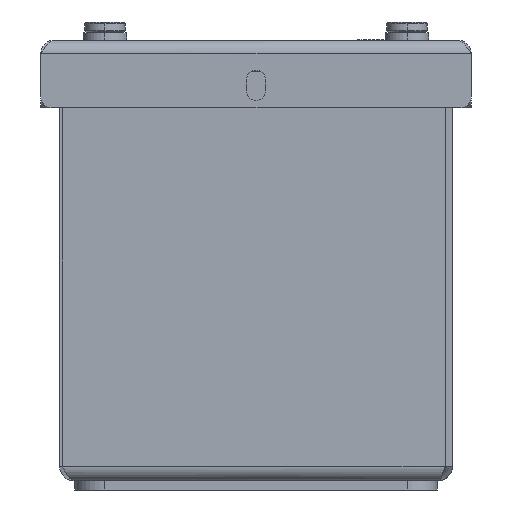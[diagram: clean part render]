
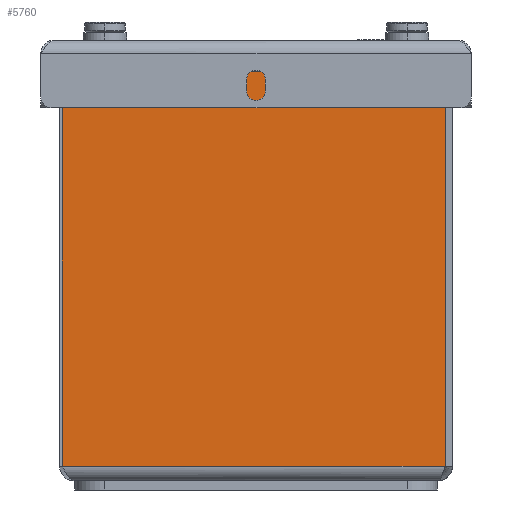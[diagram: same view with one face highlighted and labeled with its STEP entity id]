
A CAD part, left-side view. The second image highlights one B-rep face of the part: STEP entity #5760.
In plain terms, the highlighted planar face has unit normal (-1, 0, 0).
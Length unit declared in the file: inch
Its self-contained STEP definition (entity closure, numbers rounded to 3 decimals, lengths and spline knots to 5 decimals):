
#270=DIRECTION('',(0.,-1.,0.));
#271=VECTOR('',#270,3.168);
#272=CARTESIAN_POINT('',(0.,3.228,0.12));
#273=LINE('',#272,#271);
#1718=DIRECTION('',(0.,-1.,0.));
#1719=VECTOR('',#1718,2.47175);
#1720=CARTESIAN_POINT('',(0.,3.228,3.388));
#1721=LINE('',#1720,#1719);
#1808=DIRECTION('',(0.,0.,1.));
#1809=VECTOR('',#1808,3.268);
#1810=CARTESIAN_POINT('',(0.,3.228,0.12));
#1811=LINE('',#1810,#1809);
#1815=DIRECTION('',(0.,0.,1.));
#1816=VECTOR('',#1815,0.042);
#1817=CARTESIAN_POINT('',(0.,0.75625,3.388));
#1818=LINE('',#1817,#1816);
#1822=DIRECTION('',(0.,1.,0.));
#1823=VECTOR('',#1822,0.65125);
#1824=CARTESIAN_POINT('',(0.,0.105,3.43));
#1825=LINE('',#1824,#1823);
#1829=CARTESIAN_POINT('',(0.,0.105,3.385));
#1830=DIRECTION('',(-1.,0.,0.));
#1831=DIRECTION('',(0.,-1.,0.));
#1832=AXIS2_PLACEMENT_3D('',#1829,#1830,#1831);
#1879=DIRECTION('',(0.,0.,1.));
#1880=VECTOR('',#1879,3.265);
#1881=CARTESIAN_POINT('',(0.,0.06,0.12));
#1882=LINE('',#1881,#1880);
#3556=CARTESIAN_POINT('',(0.,0.75625,3.388));
#3557=CARTESIAN_POINT('',(0.,0.75625,3.43));
#3558=VERTEX_POINT('',#3556);
#3559=VERTEX_POINT('',#3557);
#3684=CARTESIAN_POINT('',(0.,3.228,0.12));
#3685=CARTESIAN_POINT('',(0.,3.228,3.388));
#3686=VERTEX_POINT('',#3684);
#3687=VERTEX_POINT('',#3685);
#3748=CARTESIAN_POINT('',(0.,0.06,3.385));
#3749=CARTESIAN_POINT('',(0.,0.105,3.43));
#3750=VERTEX_POINT('',#3748);
#3751=VERTEX_POINT('',#3749);
#3756=CARTESIAN_POINT('',(0.,0.06,0.12));
#3757=VERTEX_POINT('',#3756);
#5742=CARTESIAN_POINT('',(0.,3.25,0.));
#5743=DIRECTION('',(-1.,0.,0.));
#5744=DIRECTION('',(0.,-1.,0.));
#5745=AXIS2_PLACEMENT_3D('',#5742,#5743,#5744);
#5746=PLANE('',#5745);
#5747=ORIENTED_EDGE('',*,*,#5303,.T.);
#5748=ORIENTED_EDGE('',*,*,#5732,.T.);
#5750=ORIENTED_EDGE('',*,*,#5749,.T.);
#5752=ORIENTED_EDGE('',*,*,#5751,.F.);
#5754=ORIENTED_EDGE('',*,*,#5753,.F.);
#5756=ORIENTED_EDGE('',*,*,#5755,.F.);
#5757=ORIENTED_EDGE('',*,*,#4154,.F.);
#5758=EDGE_LOOP('',(#5747,#5748,#5750,#5752,#5754,#5756,#5757));
#5759=FACE_OUTER_BOUND('',#5758,.F.);
#1833=CIRCLE('',#1832,0.045);
#4154=EDGE_CURVE('',#3686,#3757,#273,.T.);
#5303=EDGE_CURVE('',#3686,#3687,#1811,.T.);
#5732=EDGE_CURVE('',#3687,#3558,#1721,.T.);
#5749=EDGE_CURVE('',#3558,#3559,#1818,.T.);
#5751=EDGE_CURVE('',#3751,#3559,#1825,.T.);
#5753=EDGE_CURVE('',#3750,#3751,#1833,.T.);
#5755=EDGE_CURVE('',#3757,#3750,#1882,.T.);
#5760=ADVANCED_FACE('',(#5759),#5746,.T.);
